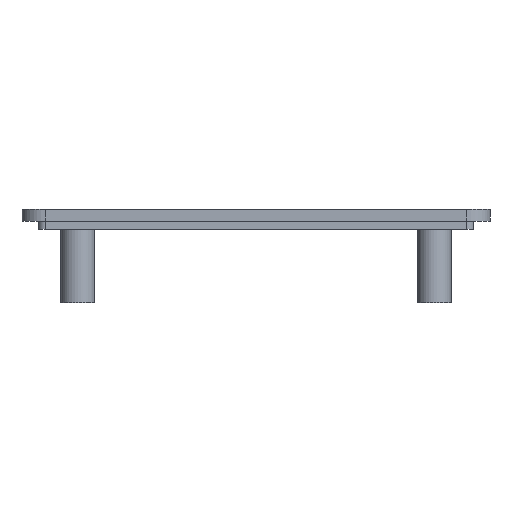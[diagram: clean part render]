
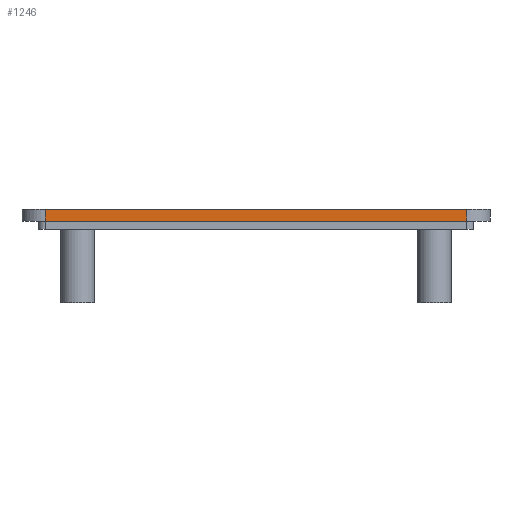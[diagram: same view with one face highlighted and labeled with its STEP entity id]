
A CAD part, front view. The second image highlights one B-rep face of the part: STEP entity #1246.
In plain terms, the highlighted planar face has unit normal (0, -1, 0).
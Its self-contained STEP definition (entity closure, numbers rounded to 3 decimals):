
#44 = PLANE('',#45);
#45 = AXIS2_PLACEMENT_3D('',#46,#47,#48);
#46 = CARTESIAN_POINT('',(0.,0.,32.));
#47 = DIRECTION('',(0.,0.,1.));
#48 = DIRECTION('',(1.,0.,0.));
#72 = CYLINDRICAL_SURFACE('',#73,4.);
#73 = AXIS2_PLACEMENT_3D('',#74,#75,#76);
#74 = CARTESIAN_POINT('',(4.,4.,30.));
#75 = DIRECTION('',(0.,0.,1.));
#76 = DIRECTION('',(-1.,-0.,0.));
#100 = PLANE('',#101);
#101 = AXIS2_PLACEMENT_3D('',#102,#103,#104);
#102 = CARTESIAN_POINT('',(0.,0.,30.));
#103 = DIRECTION('',(0.,0.,1.));
#104 = DIRECTION('',(1.,0.,0.));
#143 = VERTEX_POINT('',#144);
#144 = CARTESIAN_POINT('',(4.,0.,32.));
#166 = EDGE_CURVE('',#143,#167,#169,.T.);
#167 = VERTEX_POINT('',#168);
#168 = CARTESIAN_POINT('',(76.,0.,32.));
#169 = SURFACE_CURVE('',#170,(#174,#181),.PCURVE_S1.);
#170 = LINE('',#171,#172);
#171 = CARTESIAN_POINT('',(0.,0.,32.));
#172 = VECTOR('',#173,1.);
#173 = DIRECTION('',(1.,0.,0.));
#174 = PCURVE('',#44,#175);
#175 = DEFINITIONAL_REPRESENTATION('',(#176),#180);
#176 = LINE('',#177,#178);
#177 = CARTESIAN_POINT('',(0.,0.));
#178 = VECTOR('',#179,1.);
#179 = DIRECTION('',(1.,0.));
#180 = ( GEOMETRIC_REPRESENTATION_CONTEXT(2) 
PARAMETRIC_REPRESENTATION_CONTEXT() REPRESENTATION_CONTEXT('2D SPACE',''
  ) );
#181 = PCURVE('',#182,#187);
#182 = PLANE('',#183);
#183 = AXIS2_PLACEMENT_3D('',#184,#185,#186);
#184 = CARTESIAN_POINT('',(0.,0.,30.));
#185 = DIRECTION('',(0.,1.,0.));
#186 = DIRECTION('',(0.,0.,1.));
#187 = DEFINITIONAL_REPRESENTATION('',(#188),#192);
#188 = LINE('',#189,#190);
#189 = CARTESIAN_POINT('',(2.,0.));
#190 = VECTOR('',#191,1.);
#191 = DIRECTION('',(0.,1.));
#192 = ( GEOMETRIC_REPRESENTATION_CONTEXT(2) 
PARAMETRIC_REPRESENTATION_CONTEXT() REPRESENTATION_CONTEXT('2D SPACE',''
  ) );
#215 = CYLINDRICAL_SURFACE('',#216,4.);
#216 = AXIS2_PLACEMENT_3D('',#217,#218,#219);
#217 = CARTESIAN_POINT('',(76.,4.,30.));
#218 = DIRECTION('',(0.,0.,1.));
#219 = DIRECTION('',(1.,0.,-0.));
#800 = VERTEX_POINT('',#801);
#801 = CARTESIAN_POINT('',(4.,0.,30.));
#823 = EDGE_CURVE('',#800,#143,#824,.T.);
#824 = SURFACE_CURVE('',#825,(#829,#836),.PCURVE_S1.);
#825 = LINE('',#826,#827);
#826 = CARTESIAN_POINT('',(4.,0.,30.));
#827 = VECTOR('',#828,1.);
#828 = DIRECTION('',(0.,0.,1.));
#829 = PCURVE('',#72,#830);
#830 = DEFINITIONAL_REPRESENTATION('',(#831),#835);
#831 = LINE('',#832,#833);
#832 = CARTESIAN_POINT('',(1.571,0.));
#833 = VECTOR('',#834,1.);
#834 = DIRECTION('',(0.,1.));
#835 = ( GEOMETRIC_REPRESENTATION_CONTEXT(2) 
PARAMETRIC_REPRESENTATION_CONTEXT() REPRESENTATION_CONTEXT('2D SPACE',''
  ) );
#836 = PCURVE('',#182,#837);
#837 = DEFINITIONAL_REPRESENTATION('',(#838),#842);
#838 = LINE('',#839,#840);
#839 = CARTESIAN_POINT('',(0.,4.));
#840 = VECTOR('',#841,1.);
#841 = DIRECTION('',(1.,0.));
#842 = ( GEOMETRIC_REPRESENTATION_CONTEXT(2) 
PARAMETRIC_REPRESENTATION_CONTEXT() REPRESENTATION_CONTEXT('2D SPACE',''
  ) );
#905 = EDGE_CURVE('',#800,#906,#908,.T.);
#906 = VERTEX_POINT('',#907);
#907 = CARTESIAN_POINT('',(76.,0.,30.));
#908 = SURFACE_CURVE('',#909,(#913,#920),.PCURVE_S1.);
#909 = LINE('',#910,#911);
#910 = CARTESIAN_POINT('',(0.,0.,30.));
#911 = VECTOR('',#912,1.);
#912 = DIRECTION('',(1.,0.,0.));
#913 = PCURVE('',#100,#914);
#914 = DEFINITIONAL_REPRESENTATION('',(#915),#919);
#915 = LINE('',#916,#917);
#916 = CARTESIAN_POINT('',(0.,0.));
#917 = VECTOR('',#918,1.);
#918 = DIRECTION('',(1.,0.));
#919 = ( GEOMETRIC_REPRESENTATION_CONTEXT(2) 
PARAMETRIC_REPRESENTATION_CONTEXT() REPRESENTATION_CONTEXT('2D SPACE',''
  ) );
#920 = PCURVE('',#182,#921);
#921 = DEFINITIONAL_REPRESENTATION('',(#922),#926);
#922 = LINE('',#923,#924);
#923 = CARTESIAN_POINT('',(0.,0.));
#924 = VECTOR('',#925,1.);
#925 = DIRECTION('',(0.,1.));
#926 = ( GEOMETRIC_REPRESENTATION_CONTEXT(2) 
PARAMETRIC_REPRESENTATION_CONTEXT() REPRESENTATION_CONTEXT('2D SPACE',''
  ) );
#1246 = ADVANCED_FACE('',(#1247),#182,.F.);
#1247 = FACE_BOUND('',#1248,.F.);
#1248 = EDGE_LOOP('',(#1249,#1250,#1251,#1252));
#1249 = ORIENTED_EDGE('',*,*,#905,.F.);
#1250 = ORIENTED_EDGE('',*,*,#823,.T.);
#1251 = ORIENTED_EDGE('',*,*,#166,.T.);
#1252 = ORIENTED_EDGE('',*,*,#1253,.F.);
#1253 = EDGE_CURVE('',#906,#167,#1254,.T.);
#1254 = SURFACE_CURVE('',#1255,(#1259,#1266),.PCURVE_S1.);
#1255 = LINE('',#1256,#1257);
#1256 = CARTESIAN_POINT('',(76.,0.,30.));
#1257 = VECTOR('',#1258,1.);
#1258 = DIRECTION('',(0.,0.,1.));
#1259 = PCURVE('',#182,#1260);
#1260 = DEFINITIONAL_REPRESENTATION('',(#1261),#1265);
#1261 = LINE('',#1262,#1263);
#1262 = CARTESIAN_POINT('',(0.,76.));
#1263 = VECTOR('',#1264,1.);
#1264 = DIRECTION('',(1.,0.));
#1265 = ( GEOMETRIC_REPRESENTATION_CONTEXT(2) 
PARAMETRIC_REPRESENTATION_CONTEXT() REPRESENTATION_CONTEXT('2D SPACE',''
  ) );
#1266 = PCURVE('',#215,#1267);
#1267 = DEFINITIONAL_REPRESENTATION('',(#1268),#1272);
#1268 = LINE('',#1269,#1270);
#1269 = CARTESIAN_POINT('',(-1.571,0.));
#1270 = VECTOR('',#1271,1.);
#1271 = DIRECTION('',(-0.,1.));
#1272 = ( GEOMETRIC_REPRESENTATION_CONTEXT(2) 
PARAMETRIC_REPRESENTATION_CONTEXT() REPRESENTATION_CONTEXT('2D SPACE',''
  ) );
